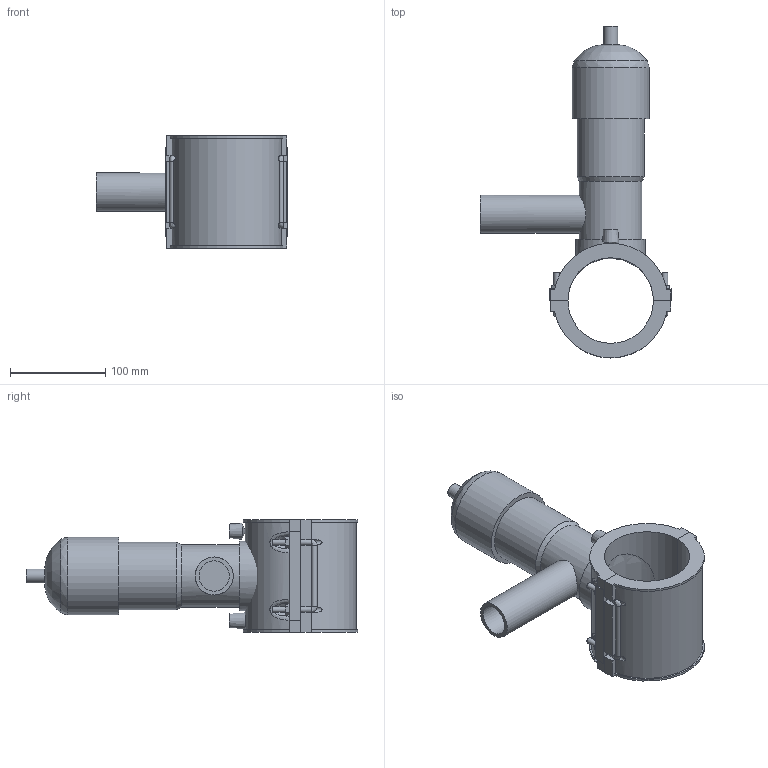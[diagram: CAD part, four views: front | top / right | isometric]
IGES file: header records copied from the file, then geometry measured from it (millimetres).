
Global section: file name: 495404090040.ipt; native system: Autodesk Inventor 2015; preprocessor: unknown; author: KIM; date: 20171106.094243; units: millimetre
Bounding box: 201 x 349.25 x 118 mm (x, y, z)
Volume: 1509884.4 mm3; surface area: 196204.6 mm2
Topology: 3 solids, 3 shells, 157 faces, 390 edges, 254 vertices
Faces by surface type: plane 99, cylinder 27, revolution 20, cone 7, bspline 4
Full cylindrical faces by diameter (mm): 4 x2, 6 x8, 14.64 x1, 40 x1, 65.88 x1, 70.76 x1, 73.2 x1, 81.333 x1
